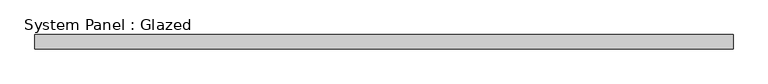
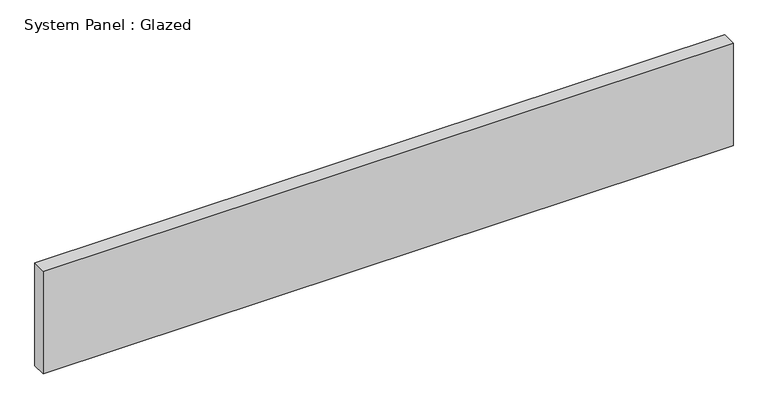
"""IFC4 building model written with IfcOpenShell, lengths in millimetres: plate geometry, System Panel : Glazed."""

from ifc_helpers import new_model, si_unit, origin, origin_with_axes, place, context, project, spatial, polyline, outline, extrude, source, transform, mapped, element, save


def system_panel_glazed_306a2926(model_context):
    return source(origin(), model_context, "Body", "SweptSolid", [
        extrude(outline(polyline([(609.0, -49.5), (-609.0, -49.5), (-609.0, -24.5), (609.0, -24.5), (609.0, -49.5)])), origin_with_axes(), (0.0, 0.0, 1.0), 192.0),
    ])


if __name__ == "__main__":
    model = new_model("IFC4")
    model_context = context("Model", 3, world=origin())
    ifc_project = project(units=[si_unit("LENGTHUNIT", "METRE", prefix="MILLI")], contexts=[model_context])
    site = spatial("IfcSite", under=ifc_project)
    building = spatial("IfcBuilding", under=site)
    placement = place(None, origin())
    system_panel_glazed_shape = system_panel_glazed_306a2926(model_context)
    element("IfcPlate", 1, ObjectType="System Panel : Glazed", at=placement, inside=building, context=model_context, shape_type="MappedRepresentation", body=[
        mapped(system_panel_glazed_shape, transform((0.0, 0.0, 0.0), x_axis=(1.0, 0.0, 0.0), y_axis=(0.0, 1.0, 0.0), z_axis=(0.0, 0.0, 1.0))),
    ])
    save(model, "model.ifc")
